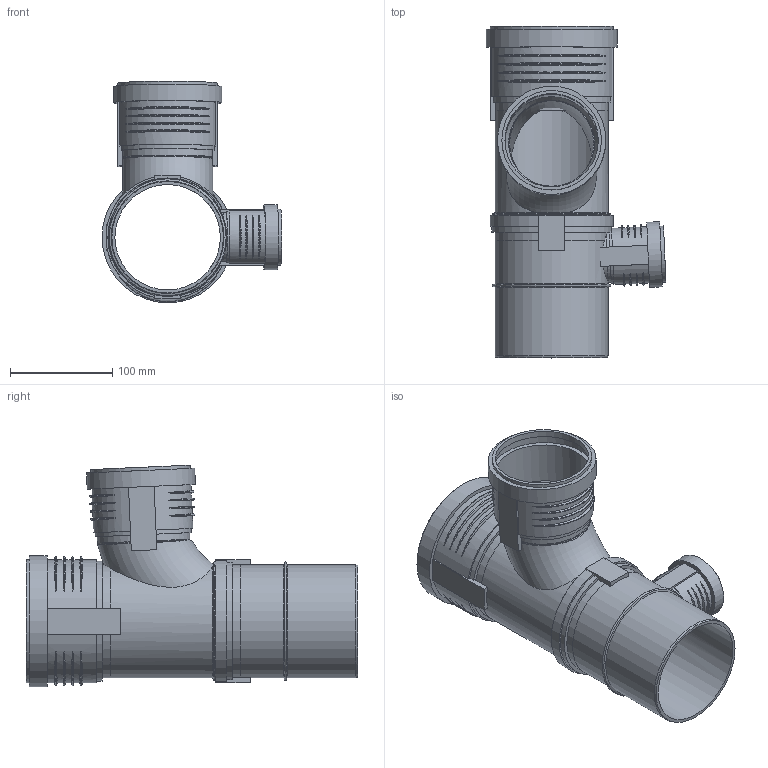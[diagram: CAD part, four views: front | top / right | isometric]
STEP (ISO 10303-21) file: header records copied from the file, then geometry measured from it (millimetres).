
FILE_DESCRIPTION(/* description */ (''),/* implementation_level */ '2;1');
FILE_NAME(/* name */ 'Z:\Geberit\Export\Export18\Kombiabzweig PP-MD_Iassembly\stp\390562.stp',/* time_stamp */ '2014-08-26T20:30:51+02:00',/* author */ ('ML'),/* organization */ (''),/* preprocessor_version */ 'ST-DEVELOPER v15.2',/* originating_system */ 'Autodesk Inventor 2014',/* authorisation */ '');
FILE_SCHEMA (('AUTOMOTIVE_DESIGN { 1 0 10303 214 3 1 1 }'));
Length unit declared in the file: millimetre
Products named in the file (12): 861360; 861401; 861404; 861739; 861362; 861403; 861404_1; 861742; 861861; 390562
Bounding box: 175.66 x 324 x 216.45 mm (x, y, z)
Volume: 586447.8 mm3; surface area: 363298.3 mm2
Topology: 6 solids, 6 shells, 220 faces, 539 edges, 370 vertices
Faces by surface type: torus 79, plane 77, cylinder 58, cone 6
Full cylindrical faces by diameter (mm): 46.15 x2, 50.15 x2, 51 x2, 55 x1, 59.7 x1, 63.7 x1, 84 x1, 84.2 x1, 90.2 x2, 91.2 x2, 97.2 x1, 99.8 x1, 103 x2, 103.2 x2, 105.8 x1, 110.2 x6, 113.3 x3, 120.3 x1, 121.1 x1, 128.1 x1
Entity records: 8859 total; most frequent: CARTESIAN_POINT 3604, DIRECTION 974, ORIENTED_EDGE 946, EDGE_CURVE 473, AXIS2_PLACEMENT_3D 415, VERTEX_POINT 353, EDGE_LOOP 324, STYLED_ITEM 224
